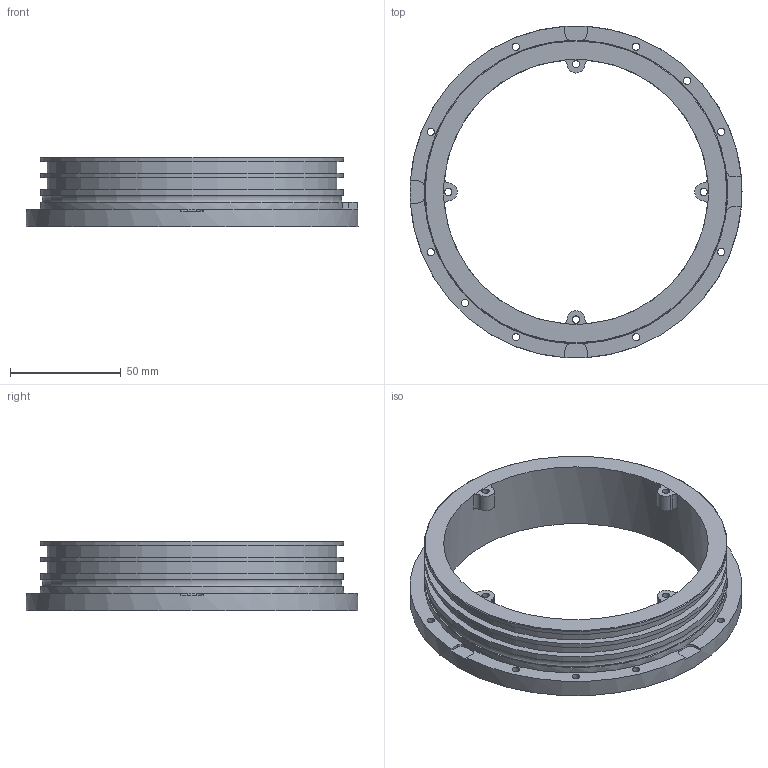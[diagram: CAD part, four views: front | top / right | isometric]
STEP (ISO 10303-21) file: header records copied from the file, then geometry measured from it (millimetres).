
FILE_DESCRIPTION(/* description */ (''),/* implementation_level */ '2;1');
FILE_NAME(/* name */ 'flange_150mm_alu_r1.step',/* time_stamp */ '2025-12-24T02:08:43+03:00',/* author */ (''),/* organization */ (''),/* preprocessor_version */ 'ST-DEVELOPER v20.1',/* originating_system */ 'Autodesk Translation Framework v14.21.0.0',/* authorisation */ '');
FILE_SCHEMA (('AUTOMOTIVE_DESIGN { 1 0 10303 214 3 1 1 }'));
Length unit declared in the file: millimetre
Products named in the file (1): Flange 150mm
Bounding box: 150 x 150 x 31.4 mm (x, y, z)
Volume: 113173.2 mm3; surface area: 47923.3 mm2
Topology: 1 solids, 1 shells, 92 faces, 233 edges, 149 vertices
Faces by surface type: cylinder 47, plane 40, cone 4, torus 1
Full cylindrical faces by diameter (mm): 3.3 x14, 119.6 x1, 123.6 x1, 131 x1, 134 x1, 137 x3, 150 x1
Entity records: 2908 total; most frequent: DIRECTION 546, CARTESIAN_POINT 475, ORIENTED_EDGE 466, EDGE_CURVE 233, AXIS2_PLACEMENT_3D 220, VERTEX_POINT 149, EDGE_LOOP 128, CIRCLE 127
